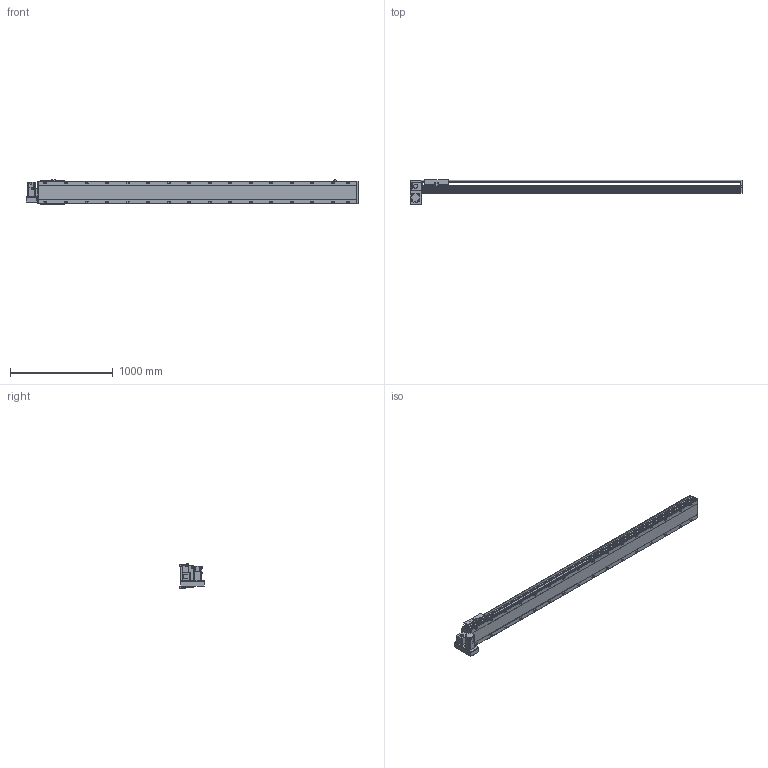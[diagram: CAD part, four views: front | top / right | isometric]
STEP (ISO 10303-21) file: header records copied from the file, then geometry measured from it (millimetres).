
FILE_DESCRIPTION(/* description */ ('STEP AP214'),/* implementation_level */ '2;1');
FILE_NAME(/* name */ 'PBS220-P40-S2750-LD-T75-C1-N(0)',/* time_stamp */ '2022-06-27T09:46:40+02:00',/* author */ ('License CC BY-ND 4.0'),/* organization */ ('CADENAS'),/* preprocessor_version */ 'ST-DEVELOPER v18.102',/* originating_system */ 'PARTsolutions',/* authorisation */ ' ');
FILE_SCHEMA (('AUTOMOTIVE_DESIGN {1 0 10303 214 3 1 1}'));
Length unit declared in the file: millimetre
Products named in the file (7): PBS220-P40-S2750-LD-T75-C1-N(0); PBS220_sensor; PBS220_plant; PBS220_sliser; T75-p1; PBS220T-LD_motors; PBS220-S2750()_body
Assembly tree (8 placements, depth 2):
  PBS220-P40-S2750-LD-T75-C1-N(0)
    PBS220_sensor  x3
    PBS220_plant
    PBS220_sliser
    T75-p1
    PBS220T-LD_motors
    PBS220-S2750()_body
Bounding box: 3234 x 239 x 238.5 mm (x, y, z)
Volume: 45026023.8 mm3; surface area: 4105703.4 mm2
Topology: 8 solids, 8 shells, 1010 faces, 2620 edges, 1702 vertices
Faces by surface type: plane 630, cylinder 324, cone 56
Full cylindrical faces by diameter (mm): 2.013 x4, 4.5 x14, 4.917 x4, 6 x7, 6.647 x8, 8 x10, 8.376 x32, 8.5 x32, 10 x6, 14 x32, 38 x2, 40 x1, 70 x1
Entity records: 28124 total; most frequent: CARTESIAN_POINT 5020, DIRECTION 4887, ORIENTED_EDGE 4394, EDGE_CURVE 2197, AXIS2_PLACEMENT_3D 1763, VERTEX_POINT 1544, LINE 1361, VECTOR 1361
